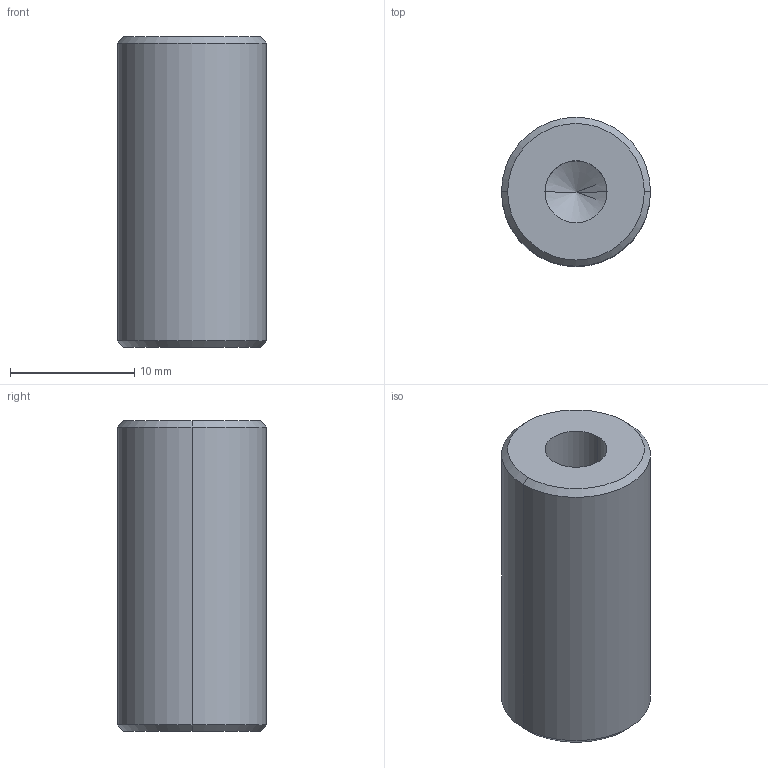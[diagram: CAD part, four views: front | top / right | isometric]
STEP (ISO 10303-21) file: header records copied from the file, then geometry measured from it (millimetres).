
FILE_DESCRIPTION (( 'STEP AP203' ), '1' );
FILE_NAME ('PHSP12-1B.step', '2019-05-09T09:07:40', ( '' ), ( '' ), 'SwSTEP 2.0', 'SolidWorks 2016', '' );
FILE_SCHEMA (( 'CONFIG_CONTROL_DESIGN' ));
Length unit declared in the file: millimetre
Products named in the file (1): PHSP12-1B
Bounding box: 12 x 12 x 25 mm (x, y, z)
Volume: 2483.6 mm3; surface area: 1443.8 mm2
Topology: 1 solids, 1 shells, 16 faces, 34 edges, 18 vertices
Faces by surface type: cone 8, cylinder 6, plane 2
Entity records: 479 total; most frequent: DIRECTION 80, CARTESIAN_POINT 65, ORIENTED_EDGE 60, AXIS2_PLACEMENT_3D 33, EDGE_CURVE 30, VERTEX_POINT 18, EDGE_LOOP 18, FACE_OUTER_BOUND 16
